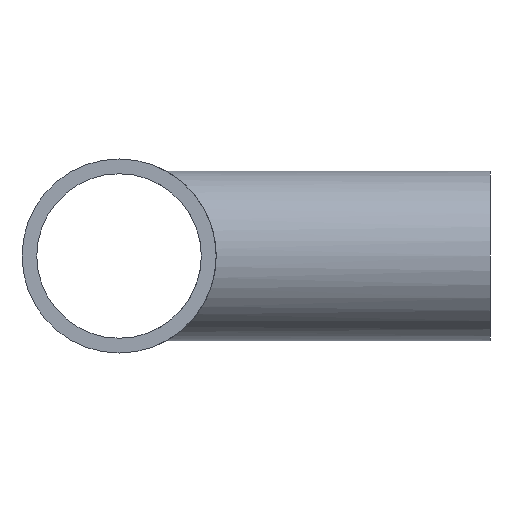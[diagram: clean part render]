
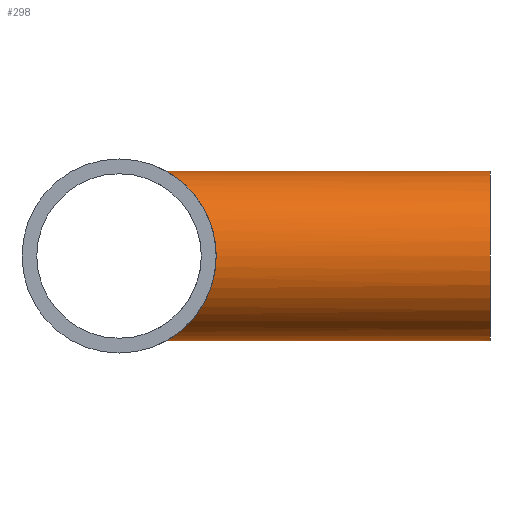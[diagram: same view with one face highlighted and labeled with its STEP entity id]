
A CAD part, left-side view. The second image highlights one B-rep face of the part: STEP entity #298.
In plain terms, the highlighted cylindrical face has radius 21.082 mm (diameter 42.164 mm), a full revolution.
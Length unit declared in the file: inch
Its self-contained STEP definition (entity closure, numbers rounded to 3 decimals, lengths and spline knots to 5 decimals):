
#45=B_SPLINE_CURVE_WITH_KNOTS('',3,(#511,#512,#513,#514,#515,#516,#517,
#518,#519,#520,#521,#522,#523,#524,#525,#526,#527,#528,#529,#530,#531,#532,
#533,#534,#535,#536,#537,#538,#539,#540,#541,#542,#543,#544,#545,#546,#547,
#548,#549,#550,#551,#552,#553,#554,#555,#556,#557,#558,#559,#560),
 .UNSPECIFIED.,.F.,.F.,(4,2,2,2,2,2,2,2,2,2,2,2,2,2,2,2,2,2,2,2,2,2,2,2,
4),(0.,0.44989,0.89979,1.34968,1.79958,
2.22384,2.6481,3.07236,3.49662,3.92088,
4.34514,4.7694,5.19366,5.64355,6.09344,
6.54334,6.99323,7.44313,7.89302,8.34292,
8.79281,9.21707,9.64133,10.06559,10.48985),
 .UNSPECIFIED.);
#46=B_SPLINE_CURVE_WITH_KNOTS('',3,(#561,#562,#563,#564,#565,#566,#567,
#568,#569,#570,#571,#572,#573,#574,#575,#576,#577,#578),.UNSPECIFIED.,.F.,
 .F.,(4,2,2,2,2,2,2,2,4),(10.48985,10.91411,11.33837,
11.76263,12.18689,12.63678,13.08668,13.53657,
13.98647),.UNSPECIFIED.);
#56=LINE('',#675,#64);
#64=VECTOR('',#443,0.83);
#72=CYLINDRICAL_SURFACE('',#352,0.83);
#95=FACE_OUTER_BOUND('',#118,.T.);
#118=EDGE_LOOP('',(#253,#254,#255,#256,#257));
#140=CIRCLE('',#353,0.83);
#153=VERTEX_POINT('',#509);
#154=VERTEX_POINT('',#510);
#164=VERTEX_POINT('',#674);
#180=EDGE_CURVE('',#153,#154,#45,.T.);
#181=EDGE_CURVE('',#154,#153,#46,.T.);
#195=EDGE_CURVE('',#154,#164,#56,.T.);
#196=EDGE_CURVE('',#164,#164,#140,.T.);
#253=ORIENTED_EDGE('',*,*,#180,.T.);
#254=ORIENTED_EDGE('',*,*,#195,.T.);
#255=ORIENTED_EDGE('',*,*,#196,.F.);
#256=ORIENTED_EDGE('',*,*,#195,.F.);
#257=ORIENTED_EDGE('',*,*,#181,.T.);
#298=ADVANCED_FACE('',(#95),#72,.T.);
#352=AXIS2_PLACEMENT_3D('',#673,#441,#442);
#353=AXIS2_PLACEMENT_3D('',#676,#444,#445);
#441=DIRECTION('center_axis',(0.,1.,0.));
#442=DIRECTION('ref_axis',(1.,0.,0.));
#443=DIRECTION('',(0.,-1.,0.));
#444=DIRECTION('center_axis',(0.,-1.,0.));
#445=DIRECTION('ref_axis',(1.,0.,0.));
#509=CARTESIAN_POINT('',(0.,-0.46217,-0.83));
#510=CARTESIAN_POINT('',(-0.83,-0.95,0.));
#511=CARTESIAN_POINT('Ctrl Pts',(0.,-0.46217,
-0.83));
#512=CARTESIAN_POINT('Ctrl Pts',(0.05904,-0.46217,
-0.83));
#513=CARTESIAN_POINT('Ctrl Pts',(0.11558,-0.47368,-0.82377));
#514=CARTESIAN_POINT('Ctrl Pts',(0.22394,-0.51104,-0.80113));
#515=CARTESIAN_POINT('Ctrl Pts',(0.27582,-0.53669,-0.78468));
#516=CARTESIAN_POINT('Ctrl Pts',(0.37485,-0.59369,-0.74249));
#517=CARTESIAN_POINT('Ctrl Pts',(0.42194,-0.62504,-0.71672));
#518=CARTESIAN_POINT('Ctrl Pts',(0.50973,-0.68736,-0.65718));
#519=CARTESIAN_POINT('Ctrl Pts',(0.5504,-0.71836,-0.62339));
#520=CARTESIAN_POINT('Ctrl Pts',(0.62131,-0.77407,-0.55248));
#521=CARTESIAN_POINT('Ctrl Pts',(0.65448,-0.80104,-0.51318));
#522=CARTESIAN_POINT('Ctrl Pts',(0.71425,-0.85057,-0.42607));
#523=CARTESIAN_POINT('Ctrl Pts',(0.74086,-0.87313,-0.37826));
#524=CARTESIAN_POINT('Ctrl Pts',(0.78449,-0.91044,-0.27664));
#525=CARTESIAN_POINT('Ctrl Pts',(0.80155,-0.92523,-0.22271));
#526=CARTESIAN_POINT('Ctrl Pts',(0.82431,-0.94502,-0.11223));
#527=CARTESIAN_POINT('Ctrl Pts',(0.83,-0.95,-0.05568));
#528=CARTESIAN_POINT('Ctrl Pts',(0.83,-0.95,0.05568));
#529=CARTESIAN_POINT('Ctrl Pts',(0.82431,-0.94502,0.11223));
#530=CARTESIAN_POINT('Ctrl Pts',(0.80155,-0.92523,0.22271));
#531=CARTESIAN_POINT('Ctrl Pts',(0.78449,-0.91044,0.27664));
#532=CARTESIAN_POINT('Ctrl Pts',(0.74086,-0.87313,0.37826));
#533=CARTESIAN_POINT('Ctrl Pts',(0.71425,-0.85057,0.42607));
#534=CARTESIAN_POINT('Ctrl Pts',(0.65448,-0.80104,0.51318));
#535=CARTESIAN_POINT('Ctrl Pts',(0.62131,-0.77407,0.55248));
#536=CARTESIAN_POINT('Ctrl Pts',(0.5504,-0.71836,0.62339));
#537=CARTESIAN_POINT('Ctrl Pts',(0.50973,-0.68736,0.65718));
#538=CARTESIAN_POINT('Ctrl Pts',(0.42194,-0.62504,0.71672));
#539=CARTESIAN_POINT('Ctrl Pts',(0.37485,-0.59369,0.74249));
#540=CARTESIAN_POINT('Ctrl Pts',(0.27582,-0.53669,0.78468));
#541=CARTESIAN_POINT('Ctrl Pts',(0.22394,-0.51104,0.80113));
#542=CARTESIAN_POINT('Ctrl Pts',(0.11558,-0.47368,0.82377));
#543=CARTESIAN_POINT('Ctrl Pts',(0.05904,-0.46217,
0.83));
#544=CARTESIAN_POINT('Ctrl Pts',(-0.05904,-0.46217,
0.83));
#545=CARTESIAN_POINT('Ctrl Pts',(-0.11558,-0.47368,
0.82377));
#546=CARTESIAN_POINT('Ctrl Pts',(-0.22394,-0.51104,
0.80113));
#547=CARTESIAN_POINT('Ctrl Pts',(-0.27582,-0.53669,
0.78468));
#548=CARTESIAN_POINT('Ctrl Pts',(-0.37485,-0.59369,0.74249));
#549=CARTESIAN_POINT('Ctrl Pts',(-0.42194,-0.62504,0.71672));
#550=CARTESIAN_POINT('Ctrl Pts',(-0.50973,-0.68736,
0.65718));
#551=CARTESIAN_POINT('Ctrl Pts',(-0.5504,-0.71836,
0.62339));
#552=CARTESIAN_POINT('Ctrl Pts',(-0.62131,-0.77407,
0.55248));
#553=CARTESIAN_POINT('Ctrl Pts',(-0.65448,-0.80104,
0.51318));
#554=CARTESIAN_POINT('Ctrl Pts',(-0.71425,-0.85057,
0.42607));
#555=CARTESIAN_POINT('Ctrl Pts',(-0.74086,-0.87313,
0.37826));
#556=CARTESIAN_POINT('Ctrl Pts',(-0.78449,-0.91044,
0.27664));
#557=CARTESIAN_POINT('Ctrl Pts',(-0.80155,-0.92523,
0.22271));
#558=CARTESIAN_POINT('Ctrl Pts',(-0.82431,-0.94502,
0.11223));
#559=CARTESIAN_POINT('Ctrl Pts',(-0.83,-0.95,0.05568));
#560=CARTESIAN_POINT('Ctrl Pts',(-0.83,-0.95,0.));
#561=CARTESIAN_POINT('Ctrl Pts',(-0.83,-0.95,0.));
#562=CARTESIAN_POINT('Ctrl Pts',(-0.83,-0.95,-0.05568));
#563=CARTESIAN_POINT('Ctrl Pts',(-0.82431,-0.94502,
-0.11223));
#564=CARTESIAN_POINT('Ctrl Pts',(-0.80155,-0.92523,
-0.22271));
#565=CARTESIAN_POINT('Ctrl Pts',(-0.78449,-0.91044,
-0.27664));
#566=CARTESIAN_POINT('Ctrl Pts',(-0.74086,-0.87313,
-0.37826));
#567=CARTESIAN_POINT('Ctrl Pts',(-0.71425,-0.85057,
-0.42607));
#568=CARTESIAN_POINT('Ctrl Pts',(-0.65448,-0.80104,
-0.51318));
#569=CARTESIAN_POINT('Ctrl Pts',(-0.62131,-0.77407,
-0.55248));
#570=CARTESIAN_POINT('Ctrl Pts',(-0.5504,-0.71836,
-0.62339));
#571=CARTESIAN_POINT('Ctrl Pts',(-0.50973,-0.68736,
-0.65718));
#572=CARTESIAN_POINT('Ctrl Pts',(-0.42194,-0.62504,-0.71672));
#573=CARTESIAN_POINT('Ctrl Pts',(-0.37485,-0.59369,-0.74249));
#574=CARTESIAN_POINT('Ctrl Pts',(-0.27582,-0.53669,
-0.78468));
#575=CARTESIAN_POINT('Ctrl Pts',(-0.22394,-0.51104,
-0.80113));
#576=CARTESIAN_POINT('Ctrl Pts',(-0.11558,-0.47368,
-0.82377));
#577=CARTESIAN_POINT('Ctrl Pts',(-0.05904,-0.46217,
-0.83));
#578=CARTESIAN_POINT('Ctrl Pts',(0.,-0.46217,
-0.83));
#673=CARTESIAN_POINT('Origin',(0.,-3.63,0.));
#674=CARTESIAN_POINT('',(-0.83,-3.63,0.));
#675=CARTESIAN_POINT('',(-0.83,-3.63,0.));
#676=CARTESIAN_POINT('Origin',(0.,-3.63,0.));
